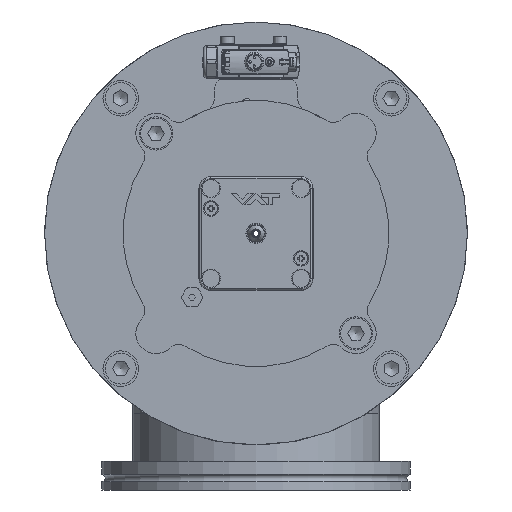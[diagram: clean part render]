
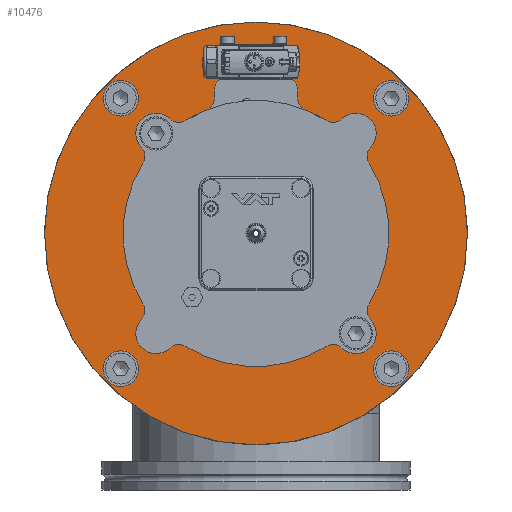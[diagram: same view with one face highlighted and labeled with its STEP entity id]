
A CAD part, left-side view. The second image highlights one B-rep face of the part: STEP entity #10476.
In plain terms, the highlighted planar face has unit normal (-1, 0, 0).
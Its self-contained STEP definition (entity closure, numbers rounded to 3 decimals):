
#10476=ADVANCED_FACE('BCT_REF_156008',(#13759,#13760,#13761,#13762,#13763,
#13764,#13765,#13766,#13767,#13768),#11679,.F.);
#11679=PLANE('',#31695);
#12598=CIRCLE('',#31670,89.);
#12608=CIRCLE('',#31686,3.4);
#12609=CIRCLE('',#31687,3.4);
#12610=CIRCLE('',#31688,3.4);
#12611=CIRCLE('',#31689,3.4);
#12612=CIRCLE('',#31690,7.5);
#12613=CIRCLE('',#31691,7.5);
#12614=CIRCLE('',#31692,7.5);
#12615=CIRCLE('',#31693,7.5);
#12616=CIRCLE('',#31694,55.145);
#13759=FACE_BOUND('',#14761,.T.);
#13760=FACE_BOUND('',#14762,.T.);
#13761=FACE_BOUND('',#14763,.T.);
#13762=FACE_BOUND('',#14764,.T.);
#13763=FACE_BOUND('',#14765,.T.);
#13764=FACE_BOUND('',#14766,.T.);
#13765=FACE_BOUND('',#14767,.T.);
#13766=FACE_BOUND('',#14768,.T.);
#13767=FACE_BOUND('',#14769,.T.);
#13768=FACE_BOUND('',#14770,.T.);
#14761=EDGE_LOOP('',(#17450));
#14762=EDGE_LOOP('',(#17451));
#14763=EDGE_LOOP('',(#17452));
#14764=EDGE_LOOP('',(#17453));
#14765=EDGE_LOOP('',(#17454));
#14766=EDGE_LOOP('',(#17455));
#14767=EDGE_LOOP('',(#17456));
#14768=EDGE_LOOP('',(#17457));
#14769=EDGE_LOOP('',(#17458));
#14770=EDGE_LOOP('',(#17459));
#17450=ORIENTED_EDGE('',*,*,#25228,.T.);
#17451=ORIENTED_EDGE('',*,*,#25229,.T.);
#17452=ORIENTED_EDGE('',*,*,#25230,.T.);
#17453=ORIENTED_EDGE('',*,*,#25231,.T.);
#17454=ORIENTED_EDGE('',*,*,#25232,.T.);
#17455=ORIENTED_EDGE('',*,*,#25233,.T.);
#17456=ORIENTED_EDGE('',*,*,#25234,.T.);
#17457=ORIENTED_EDGE('',*,*,#25235,.T.);
#17458=ORIENTED_EDGE('',*,*,#25236,.T.);
#17459=ORIENTED_EDGE('',*,*,#25208,.T.);
#22864=VERTEX_POINT('',#43855);
#22879=VERTEX_POINT('',#43908);
#22880=VERTEX_POINT('',#43910);
#22881=VERTEX_POINT('',#43912);
#22882=VERTEX_POINT('',#43914);
#22883=VERTEX_POINT('',#43916);
#22884=VERTEX_POINT('',#43918);
#22885=VERTEX_POINT('',#43920);
#22886=VERTEX_POINT('',#43922);
#22887=VERTEX_POINT('',#43924);
#25208=EDGE_CURVE('',#22864,#22864,#12598,.T.);
#25228=EDGE_CURVE('',#22879,#22879,#12608,.T.);
#25229=EDGE_CURVE('',#22880,#22880,#12609,.T.);
#25230=EDGE_CURVE('',#22881,#22881,#12610,.T.);
#25231=EDGE_CURVE('',#22882,#22882,#12611,.T.);
#25232=EDGE_CURVE('BCT_REF_155885',#22883,#22883,#12612,.T.);
#25233=EDGE_CURVE('',#22884,#22884,#12613,.T.);
#25234=EDGE_CURVE('',#22885,#22885,#12614,.T.);
#25235=EDGE_CURVE('',#22886,#22886,#12615,.T.);
#25236=EDGE_CURVE('BCT_REF_156011',#22887,#22887,#12616,.T.);
#31670=AXIS2_PLACEMENT_3D('',#43854,#35080,#35081);
#31686=AXIS2_PLACEMENT_3D('',#43907,#35120,#35121);
#31687=AXIS2_PLACEMENT_3D('',#43909,#35122,#35123);
#31688=AXIS2_PLACEMENT_3D('',#43911,#35124,#35125);
#31689=AXIS2_PLACEMENT_3D('',#43913,#35126,#35127);
#31690=AXIS2_PLACEMENT_3D('',#43915,#35128,#35129);
#31691=AXIS2_PLACEMENT_3D('',#43917,#35130,#35131);
#31692=AXIS2_PLACEMENT_3D('',#43919,#35132,#35133);
#31693=AXIS2_PLACEMENT_3D('',#43921,#35134,#35135);
#31694=AXIS2_PLACEMENT_3D('',#43923,#35136,#35137);
#31695=AXIS2_PLACEMENT_3D('',#43925,#35138,#35139);
#35080=DIRECTION('',(-1.,0.,0.));
#35081=DIRECTION('',(0.,0.,1.));
#35120=DIRECTION('',(1.,0.,0.));
#35121=DIRECTION('',(0.,-1.,0.));
#35122=DIRECTION('',(1.,0.,0.));
#35123=DIRECTION('',(0.,0.,1.));
#35124=DIRECTION('',(1.,0.,0.));
#35125=DIRECTION('',(0.,1.,0.));
#35126=DIRECTION('',(1.,0.,0.));
#35127=DIRECTION('',(0.,0.,-1.));
#35128=DIRECTION('',(1.,0.,0.));
#35129=DIRECTION('',(0.,-1.,0.));
#35130=DIRECTION('',(1.,0.,0.));
#35131=DIRECTION('',(0.,0.,1.));
#35132=DIRECTION('',(1.,0.,0.));
#35133=DIRECTION('',(0.,1.,0.));
#35134=DIRECTION('',(1.,0.,0.));
#35135=DIRECTION('',(0.,0.,-1.));
#35136=DIRECTION('',(1.,0.,0.));
#35137=DIRECTION('',(0.,0.,-1.));
#35138=DIRECTION('',(1.,0.,0.));
#35139=DIRECTION('',(0.,0.,-1.));
#43854=CARTESIAN_POINT('',(0.,0.,0.));
#43855=CARTESIAN_POINT('',(0.,0.,89.));
#43907=CARTESIAN_POINT('',(0.,-42.073,-42.073));
#43908=CARTESIAN_POINT('',(0.,-45.473,-42.073));
#43909=CARTESIAN_POINT('',(0.,-42.073,42.073));
#43910=CARTESIAN_POINT('',(0.,-42.073,45.473));
#43911=CARTESIAN_POINT('',(0.,42.073,42.073));
#43912=CARTESIAN_POINT('',(0.,45.473,42.073));
#43913=CARTESIAN_POINT('',(0.,42.073,-42.073));
#43914=CARTESIAN_POINT('',(0.,42.073,-45.473));
#43915=CARTESIAN_POINT('',(0.,56.922,-56.922));
#43916=CARTESIAN_POINT('',(0.,49.422,-56.922));
#43917=CARTESIAN_POINT('',(0.,-56.922,-56.922));
#43918=CARTESIAN_POINT('',(0.,-56.922,-49.422));
#43919=CARTESIAN_POINT('',(0.,-56.922,56.922));
#43920=CARTESIAN_POINT('',(0.,-49.422,56.922));
#43921=CARTESIAN_POINT('',(0.,56.922,56.922));
#43922=CARTESIAN_POINT('',(0.,56.922,49.422));
#43923=CARTESIAN_POINT('',(0.,0.,0.));
#43924=CARTESIAN_POINT('',(0.,0.,-55.145));
#43925=CARTESIAN_POINT('',(0.,89.,0.));
